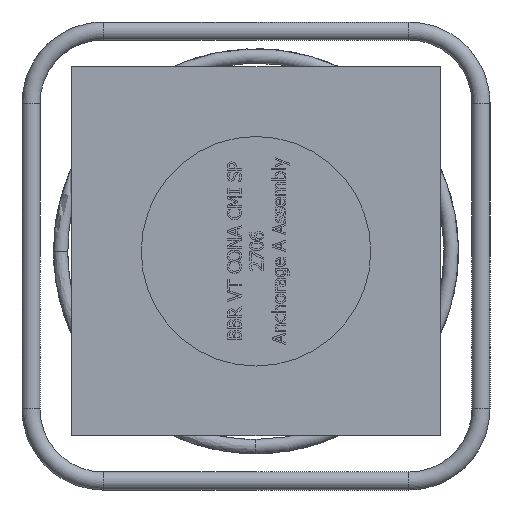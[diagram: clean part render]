
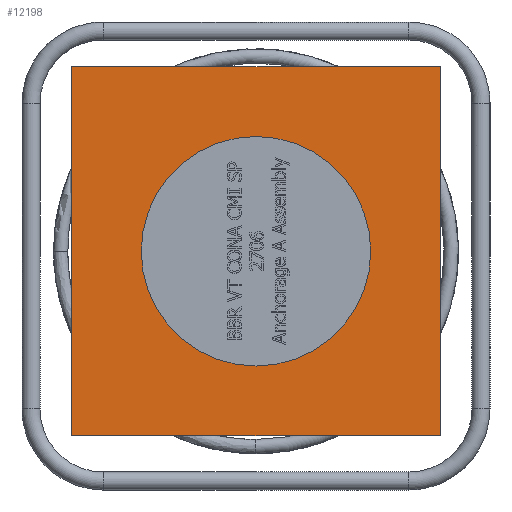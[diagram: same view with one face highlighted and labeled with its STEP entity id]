
A CAD part, left-side view. The second image highlights one B-rep face of the part: STEP entity #12198.
In plain terms, the highlighted planar face has unit normal (-1, 0, 0).
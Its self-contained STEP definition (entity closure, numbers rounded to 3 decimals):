
#1938=LINE('',#26879,#2989);
#1942=LINE('',#26886,#2993);
#1945=LINE('',#26891,#2996);
#1948=LINE('',#26895,#2999);
#2989=VECTOR('',#14554,410.);
#2993=VECTOR('',#14560,410.);
#2996=VECTOR('',#14565,410.);
#2999=VECTOR('',#14570,410.);
#3313=PLANE('',#12645);
#3456=FACE_BOUND('',#4915,.T.);
#4133=FACE_OUTER_BOUND('',#4914,.T.);
#4914=EDGE_LOOP('',(#11305,#11306,#11307,#11308));
#4915=EDGE_LOOP('',(#11309));
#5012=CIRCLE('',#12627,127.5);
#6168=VERTEX_POINT('',#22768);
#6183=VERTEX_POINT('',#26877);
#6184=VERTEX_POINT('',#26878);
#6186=VERTEX_POINT('',#26885);
#6187=VERTEX_POINT('',#26890);
#7875=EDGE_CURVE('',#6168,#6168,#5012,.T.);
#7892=EDGE_CURVE('',#6183,#6184,#1938,.T.);
#7896=EDGE_CURVE('',#6184,#6186,#1942,.T.);
#7899=EDGE_CURVE('',#6186,#6187,#1945,.T.);
#7902=EDGE_CURVE('',#6187,#6183,#1948,.T.);
#11305=ORIENTED_EDGE('',*,*,#7902,.T.);
#11306=ORIENTED_EDGE('',*,*,#7892,.T.);
#11307=ORIENTED_EDGE('',*,*,#7896,.T.);
#11308=ORIENTED_EDGE('',*,*,#7899,.T.);
#11309=ORIENTED_EDGE('',*,*,#7875,.T.);
#12198=ADVANCED_FACE('',(#4133,#3456),#3313,.F.);
#12627=AXIS2_PLACEMENT_3D('',#22769,#14518,#14519);
#12645=AXIS2_PLACEMENT_3D('',#26897,#14572,#14573);
#14518=DIRECTION('center_axis',(1.,0.,0.));
#14519=DIRECTION('ref_axis',(0.,0.,
1.));
#14554=DIRECTION('',(0.,0.,-1.));
#14560=DIRECTION('',(0.,-1.,0.));
#14565=DIRECTION('',(0.,0.,1.));
#14570=DIRECTION('',(0.,1.,0.));
#14572=DIRECTION('center_axis',(1.,0.,0.));
#14573=DIRECTION('ref_axis',(0.,0.,1.));
#22768=CARTESIAN_POINT('',(-112.151,-127.5,5.253));
#22769=CARTESIAN_POINT('Origin',(-112.151,0.,
5.253));
#26877=CARTESIAN_POINT('',(-112.151,205.,210.253));
#26878=CARTESIAN_POINT('',(-112.151,205.,-199.747));
#26879=CARTESIAN_POINT('',(-112.151,205.,210.253));
#26885=CARTESIAN_POINT('',(-112.151,-205.,-199.747));
#26886=CARTESIAN_POINT('',(-112.151,205.,-199.747));
#26890=CARTESIAN_POINT('',(-112.151,-205.,210.253));
#26891=CARTESIAN_POINT('',(-112.151,-205.,-199.747));
#26895=CARTESIAN_POINT('',(-112.151,-205.,210.253));
#26897=CARTESIAN_POINT('Origin',(-112.151,0.,
5.253));
